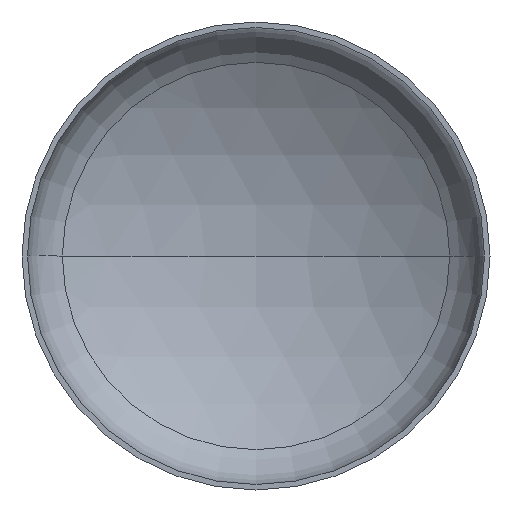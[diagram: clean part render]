
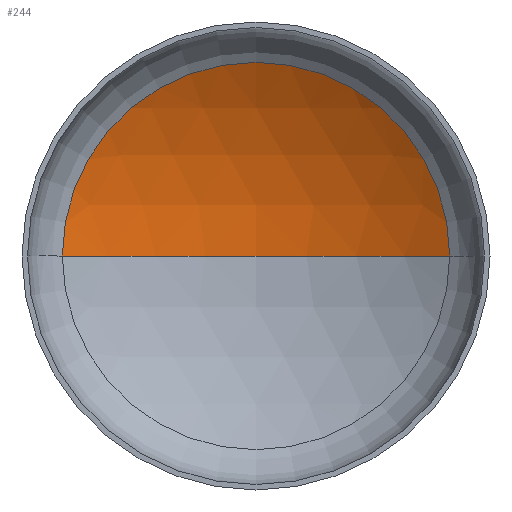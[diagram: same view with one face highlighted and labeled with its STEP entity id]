
A CAD part, front view. The second image highlights one B-rep face of the part: STEP entity #244.
In plain terms, the highlighted spherical face has radius 5600 mm.
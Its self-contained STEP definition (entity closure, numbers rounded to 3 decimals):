
#6 = ORIENTED_EDGE ( 'NONE', *, *, #129, .T. ) ;
#16 = DIRECTION ( 'NONE',  ( 0., -1., 0. ) ) ;
#22 = CARTESIAN_POINT ( 'NONE',  ( -2896.637, 1024.297, 0. ) ) ;
#23 = VERTEX_POINT ( 'NONE', #103 ) ;
#29 = DIRECTION ( 'NONE',  ( 0., 0., -1. ) ) ;
#35 = AXIS2_PLACEMENT_3D ( 'NONE', #310, #29, #328 ) ;
#57 = ORIENTED_EDGE ( 'NONE', *, *, #133, .F. ) ;
#68 = AXIS2_PLACEMENT_3D ( 'NONE', #368, #236, #394 ) ;
#70 = AXIS2_PLACEMENT_3D ( 'NONE', #159, #323, #187 ) ;
#72 = VERTEX_POINT ( 'NONE', #253 ) ;
#73 = AXIS2_PLACEMENT_3D ( 'NONE', #258, #16, #283 ) ;
#103 = CARTESIAN_POINT ( 'NONE',  ( 0., 1831.647, 0. ) ) ;
#112 = EDGE_LOOP ( 'NONE', ( #57, #6, #298 ) ) ;
#127 = EDGE_CURVE ( 'NONE', #72, #148, #387, .T. ) ;
#129 = EDGE_CURVE ( 'NONE', #23, #72, #327, .T. ) ;
#133 = EDGE_CURVE ( 'NONE', #23, #148, #202, .T. ) ;
#148 = VERTEX_POINT ( 'NONE', #22 ) ;
#159 = CARTESIAN_POINT ( 'NONE',  ( 0., -3768.353, 0. ) ) ;
#184 = SPHERICAL_SURFACE ( 'NONE', #35, 5600. ) ;
#187 = DIRECTION ( 'NONE',  ( -1., 0., 0. ) ) ;
#202 = CIRCLE ( 'NONE', #68, 5600. ) ;
#236 = DIRECTION ( 'NONE',  ( 0., 0., 1. ) ) ;
#244 = ADVANCED_FACE ( 'NONE', ( #365 ), #184, .F. ) ;
#253 = CARTESIAN_POINT ( 'NONE',  ( 2896.637, 1024.297, 0. ) ) ;
#258 = CARTESIAN_POINT ( 'NONE',  ( 0., 1024.297, 0. ) ) ;
#283 = DIRECTION ( 'NONE',  ( 1., 0., 0. ) ) ;
#298 = ORIENTED_EDGE ( 'NONE', *, *, #127, .T. ) ;
#310 = CARTESIAN_POINT ( 'NONE',  ( 0., -3768.353, 0. ) ) ;
#323 = DIRECTION ( 'NONE',  ( 0., 0., -1. ) ) ;
#327 = CIRCLE ( 'NONE', #70, 5600. ) ;
#328 = DIRECTION ( 'NONE',  ( -1., 0., 0. ) ) ;
#365 = FACE_OUTER_BOUND ( 'NONE', #112, .T. ) ;
#368 = CARTESIAN_POINT ( 'NONE',  ( 0., -3768.353, 0. ) ) ;
#387 = CIRCLE ( 'NONE', #73, 2896.637 ) ;
#394 = DIRECTION ( 'NONE',  ( 1., 0., 0. ) ) ;
